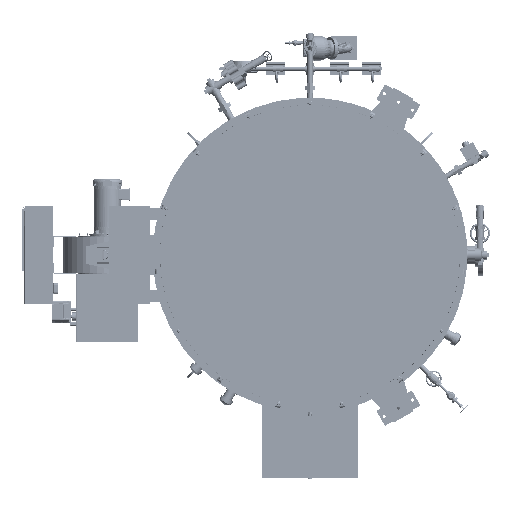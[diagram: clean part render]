
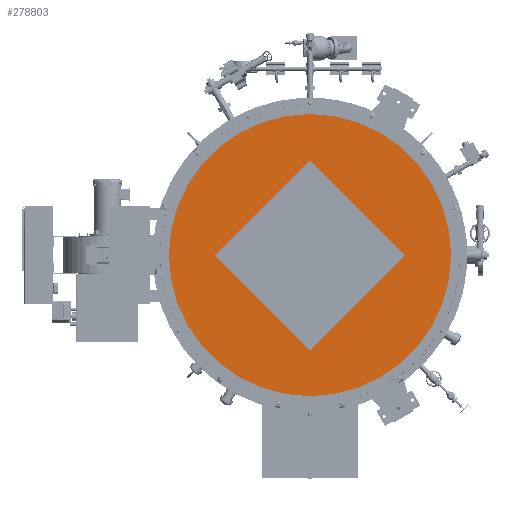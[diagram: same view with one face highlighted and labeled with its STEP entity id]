
A CAD part, front view. The second image highlights one B-rep face of the part: STEP entity #278803.
In plain terms, the highlighted planar face has unit normal (0, -1, 0).
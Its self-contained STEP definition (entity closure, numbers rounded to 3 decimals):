
#10863=FACE_BOUND('',#58379,.T.);
#27973=CIRCLE('',#301865,34.5);
#41512=FACE_OUTER_BOUND('',#58378,.T.);
#58378=EDGE_LOOP('',(#189447));
#58379=EDGE_LOOP('',(#189448,#189449,#189450,#189451));
#78344=LINE('',#414188,#97892);
#78348=LINE('',#414196,#97896);
#78351=LINE('',#414202,#97899);
#78354=LINE('',#414207,#97902);
#97892=VECTOR('',#332882,0.394);
#97896=VECTOR('',#332888,0.394);
#97899=VECTOR('',#332893,0.394);
#97902=VECTOR('',#332898,0.394);
#117889=VERTEX_POINT('',#414186);
#117890=VERTEX_POINT('',#414187);
#117893=VERTEX_POINT('',#414195);
#117895=VERTEX_POINT('',#414201);
#117897=VERTEX_POINT('',#414211);
#145715=EDGE_CURVE('',#117889,#117890,#78344,.T.);
#145719=EDGE_CURVE('',#117890,#117893,#78348,.T.);
#145722=EDGE_CURVE('',#117893,#117895,#78351,.T.);
#145725=EDGE_CURVE('',#117895,#117889,#78354,.T.);
#145727=EDGE_CURVE('',#117897,#117897,#27973,.T.);
#189447=ORIENTED_EDGE('',*,*,#145727,.T.);
#189448=ORIENTED_EDGE('',*,*,#145715,.T.);
#189449=ORIENTED_EDGE('',*,*,#145719,.T.);
#189450=ORIENTED_EDGE('',*,*,#145722,.T.);
#189451=ORIENTED_EDGE('',*,*,#145725,.T.);
#271339=PLANE('',#301864);
#278803=ADVANCED_FACE('',(#41512,#10863),#271339,.F.);
#301864=AXIS2_PLACEMENT_3D('',#414210,#332902,#332903);
#301865=AXIS2_PLACEMENT_3D('',#414212,#332904,#332905);
#332882=DIRECTION('',(0.707,0.,-0.707));
#332888=DIRECTION('',(-0.707,0.,-0.707));
#332893=DIRECTION('',(-0.707,0.,0.707));
#332898=DIRECTION('',(0.707,0.,0.707));
#332902=DIRECTION('center_axis',(0.,1.,0.));
#332903=DIRECTION('ref_axis',(0.,0.,1.));
#332904=DIRECTION('center_axis',(0.,-1.,0.));
#332905=DIRECTION('ref_axis',(-1.,0.,0.));
#414186=CARTESIAN_POINT('',(0.,-6.375,23.246));
#414187=CARTESIAN_POINT('',(23.246,-6.375,0.));
#414188=CARTESIAN_POINT('',(17.435,-6.375,5.812));
#414195=CARTESIAN_POINT('',(0.,-6.375,-23.246));
#414196=CARTESIAN_POINT('',(5.812,-6.375,-17.435));
#414201=CARTESIAN_POINT('',(-23.246,-6.375,0.));
#414202=CARTESIAN_POINT('',(-17.435,-6.375,-5.812));
#414207=CARTESIAN_POINT('',(-5.812,-6.375,17.435));
#414210=CARTESIAN_POINT('Origin',(0.,-6.375,0.));
#414211=CARTESIAN_POINT('',(34.5,-6.375,0.));
#414212=CARTESIAN_POINT('Origin',(0.,-6.375,0.));
